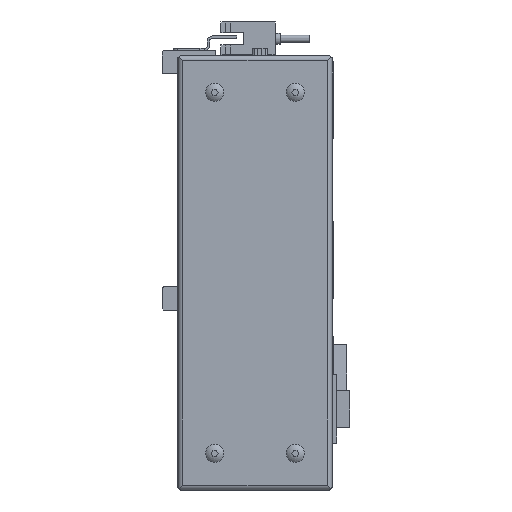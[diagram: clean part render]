
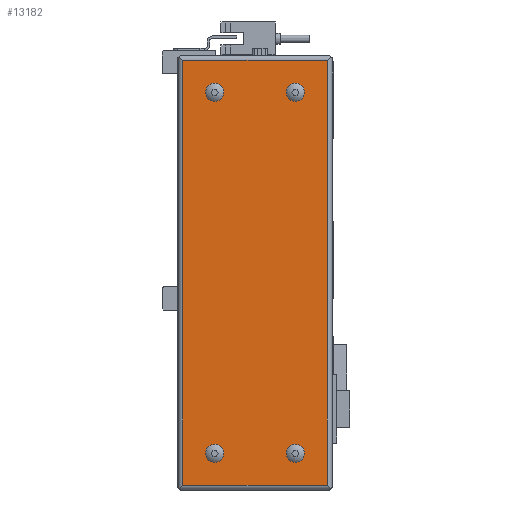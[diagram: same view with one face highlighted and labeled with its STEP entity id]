
A CAD part, left-side view. The second image highlights one B-rep face of the part: STEP entity #13182.
In plain terms, the highlighted planar face has unit normal (-1, 0, 0).
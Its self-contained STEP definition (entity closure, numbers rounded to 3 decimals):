
#361=PLANE('',#14138);
#1113=LINE('',#20031,#2446);
#1114=LINE('',#20034,#2447);
#1115=LINE('',#20036,#2448);
#1116=LINE('',#20038,#2449);
#2446=VECTOR('',#16113,1000.);
#2447=VECTOR('',#16114,1000.);
#2448=VECTOR('',#16115,1000.);
#2449=VECTOR('',#16116,1000.);
#4354=ORIENTED_EDGE('',*,*,#7655,.F.);
#4355=ORIENTED_EDGE('',*,*,#7656,.F.);
#4356=ORIENTED_EDGE('',*,*,#7657,.F.);
#4357=ORIENTED_EDGE('',*,*,#7658,.F.);
#4358=ORIENTED_EDGE('',*,*,#7659,.F.);
#4359=ORIENTED_EDGE('',*,*,#7660,.F.);
#4360=ORIENTED_EDGE('',*,*,#7661,.T.);
#4361=ORIENTED_EDGE('',*,*,#7662,.T.);
#7655=EDGE_CURVE('',#9397,#9397,#10463,.F.);
#7656=EDGE_CURVE('',#9398,#9398,#10464,.F.);
#7657=EDGE_CURVE('',#9399,#9399,#10465,.F.);
#7658=EDGE_CURVE('',#9400,#9400,#10466,.F.);
#7659=EDGE_CURVE('',#9401,#9402,#1113,.T.);
#7660=EDGE_CURVE('',#9403,#9401,#1114,.T.);
#7661=EDGE_CURVE('',#9403,#9404,#1115,.T.);
#7662=EDGE_CURVE('',#9404,#9402,#1116,.T.);
#9397=VERTEX_POINT('',#20024);
#9398=VERTEX_POINT('',#20026);
#9399=VERTEX_POINT('',#20028);
#9400=VERTEX_POINT('',#20030);
#9401=VERTEX_POINT('',#20032);
#9402=VERTEX_POINT('',#20033);
#9403=VERTEX_POINT('',#20035);
#9404=VERTEX_POINT('',#20037);
#10463=CIRCLE('',#14139,3.7);
#10464=CIRCLE('',#14140,3.7);
#10465=CIRCLE('',#14141,3.7);
#10466=CIRCLE('',#14142,3.7);
#11043=EDGE_LOOP('',(#4354));
#11044=EDGE_LOOP('',(#4355));
#11045=EDGE_LOOP('',(#4356));
#11046=EDGE_LOOP('',(#4357));
#11047=EDGE_LOOP('',(#4358,#4359,#4360,#4361));
#12034=FACE_BOUND('',#11043,.T.);
#12035=FACE_BOUND('',#11044,.T.);
#12036=FACE_BOUND('',#11045,.T.);
#12037=FACE_BOUND('',#11046,.T.);
#12038=FACE_BOUND('',#11047,.T.);
#13182=ADVANCED_FACE('',(#12034,#12035,#12036,#12037,#12038),#361,.F.);
#14138=AXIS2_PLACEMENT_3D('',#20022,#16103,#16104);
#14139=AXIS2_PLACEMENT_3D('',#20023,#16105,#16106);
#14140=AXIS2_PLACEMENT_3D('',#20025,#16107,#16108);
#14141=AXIS2_PLACEMENT_3D('',#20027,#16109,#16110);
#14142=AXIS2_PLACEMENT_3D('',#20029,#16111,#16112);
#16103=DIRECTION('',(1.,0.,0.));
#16104=DIRECTION('',(0.,0.,-1.));
#16105=DIRECTION('',(1.,0.,0.));
#16106=DIRECTION('',(0.,0.,-1.));
#16107=DIRECTION('',(1.,0.,0.));
#16108=DIRECTION('',(0.,0.,-1.));
#16109=DIRECTION('',(1.,0.,0.));
#16110=DIRECTION('',(0.,0.,-1.));
#16111=DIRECTION('',(1.,0.,0.));
#16112=DIRECTION('',(0.,0.,-1.));
#16113=DIRECTION('',(0.,0.,-1.));
#16114=DIRECTION('',(0.,-1.,0.));
#16115=DIRECTION('',(0.,0.,-1.));
#16116=DIRECTION('',(0.,-1.,0.));
#20022=CARTESIAN_POINT('',(-52.,0.,0.));
#20023=CARTESIAN_POINT('',(-52.,48.5,-111.5));
#20024=CARTESIAN_POINT('',(-52.,48.5,-115.2));
#20025=CARTESIAN_POINT('',(-52.,15.5,36.));
#20026=CARTESIAN_POINT('',(-52.,15.5,32.3));
#20027=CARTESIAN_POINT('',(-52.,15.5,-111.5));
#20028=CARTESIAN_POINT('',(-52.,15.5,-115.2));
#20029=CARTESIAN_POINT('',(-52.,48.5,36.));
#20030=CARTESIAN_POINT('',(-52.,48.5,32.3));
#20031=CARTESIAN_POINT('',(-52.,2.5,177.5));
#20032=CARTESIAN_POINT('',(-52.,2.5,49.));
#20033=CARTESIAN_POINT('',(-52.,2.5,-124.5));
#20034=CARTESIAN_POINT('',(-52.,177.5,49.));
#20035=CARTESIAN_POINT('',(-52.,61.5,49.));
#20036=CARTESIAN_POINT('',(-52.,61.5,177.5));
#20037=CARTESIAN_POINT('',(-52.,61.5,-124.5));
#20038=CARTESIAN_POINT('',(-52.,177.5,-124.5));
